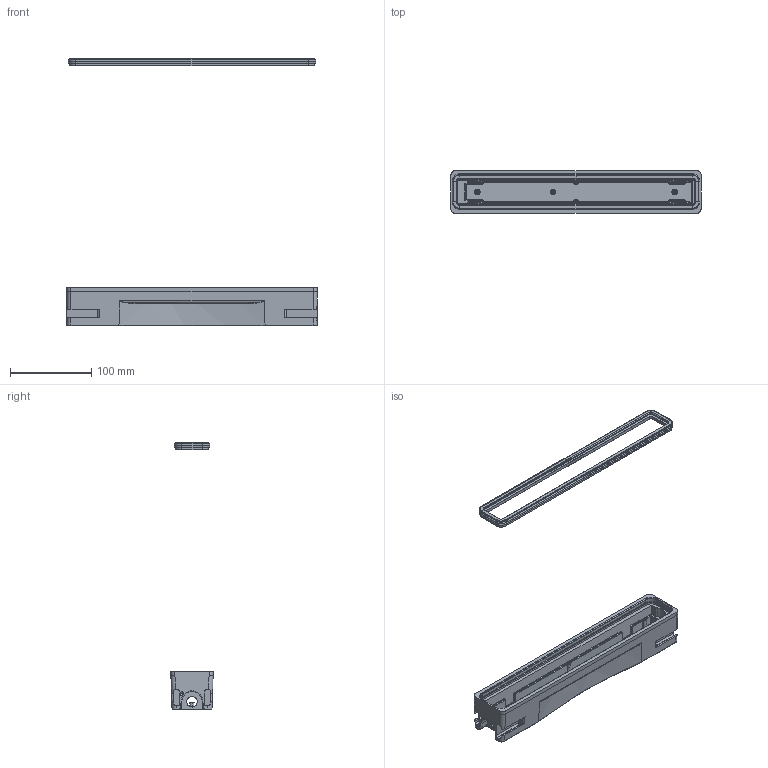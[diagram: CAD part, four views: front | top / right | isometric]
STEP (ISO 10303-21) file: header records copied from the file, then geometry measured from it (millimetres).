
FILE_DESCRIPTION (( 'STEP AP214' ), '1' );
FILE_NAME ('LCZE300.step', '2021-03-22T17:14:22', ( '' ), ( '' ), 'SwSTEP 2.0', 'SolidWorks 2021', '' );
FILE_SCHEMA (( 'AUTOMOTIVE_DESIGN' ));
Length unit declared in the file: millimetre
Products named in the file (3): HSG0126_REV4-NO-VENT PLUG; GSKT0018_R2; LCZE300
Assembly tree (2 placements, depth 2):
  LCZE300
    HSG0126_REV4-NO-VENT PLUG
    GSKT0018_R2
Bounding box: 308 x 52.35 x 329.63 mm (x, y, z)
Volume: 288198.1 mm3; surface area: 125331.7 mm2
Topology: 2 solids, 2 shells, 911 faces, 2050 edges, 1123 vertices
Faces by surface type: cylinder 343, plane 251, torus 124, bspline 110, cone 59, sphere 24
Entity records: 30603 total; most frequent: CARTESIAN_POINT 8149, DIRECTION 4187, ORIENTED_EDGE 4024, EDGE_CURVE 2012, AXIS2_PLACEMENT_3D 1631, VERTEX_POINT 1123, EDGE_LOOP 935, LINE 925
